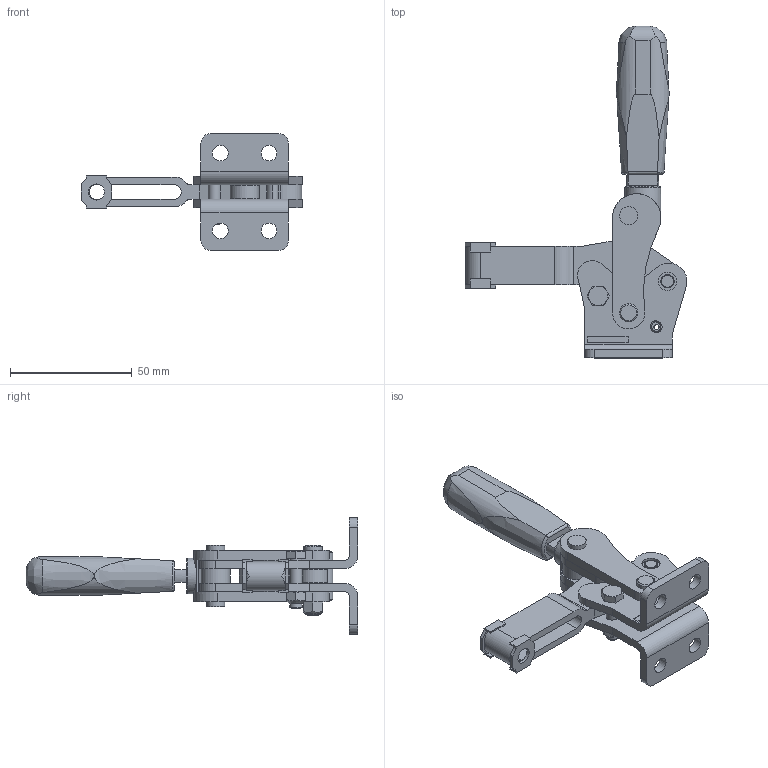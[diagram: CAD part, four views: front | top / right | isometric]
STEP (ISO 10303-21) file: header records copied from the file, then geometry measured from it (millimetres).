
FILE_DESCRIPTION( ( 'STEP AP203' ), '1' );
FILE_NAME( 'C:/Temp/Ganter_Step_05_03_2020/data/2_4/gn910/gn910_a/Toggle clamp GN 910-220-A (closed).stp', '2020-03-13T05:50:16', ( 'License CC BY-ND 4.0' ), ( 'CADENAS' ), ' ', 'PARTsolutions', ' ' );
FILE_SCHEMA( ( 'CONFIG_CONTROL_DESIGN' ) );
Length unit declared in the file: millimetre
Products named in the file (6): Toggle clamp GN 910-220-A (closed); _Toggle clamp GN 910-220-A-1; _Toggle clamp GN 910-220-A (0)-4; _Toggle clamp GN 910-220-A-2; _Toggle clamp GN 910-220-A (0)-3; _Toggle clamp GN 910-220-A (0)-5
Assembly tree (6 placements, depth 2):
  Toggle clamp GN 910-220-A (closed)
    _Toggle clamp GN 910-220-A-1
    _Toggle clamp GN 910-220-A (0)-4
    _Toggle clamp GN 910-220-A-2
    _Toggle clamp GN 910-220-A (0)-3
    _Toggle clamp GN 910-220-A (0)-5  x2
Bounding box: 91.29 x 136.5 x 48 mm (x, y, z)
Volume: 52305.4 mm3; surface area: 28647.2 mm2
Topology: 6 solids, 6 shells, 268 faces, 670 edges, 441 vertices
Faces by surface type: plane 143, cylinder 87, cone 33, torus 3, bspline 2
Full cylindrical faces by diameter (mm): 5 x3, 5.5 x4, 6 x1, 6.5 x4, 6.6 x2, 7.5 x14, 12 x2, 14.8 x1
Entity records: 8034 total; most frequent: CARTESIAN_POINT 2054, DIRECTION 1182, ORIENTED_EDGE 1136, EDGE_CURVE 568, AXIS2_PLACEMENT_3D 447, VERTEX_POINT 396, EDGE_LOOP 350, LINE 288
